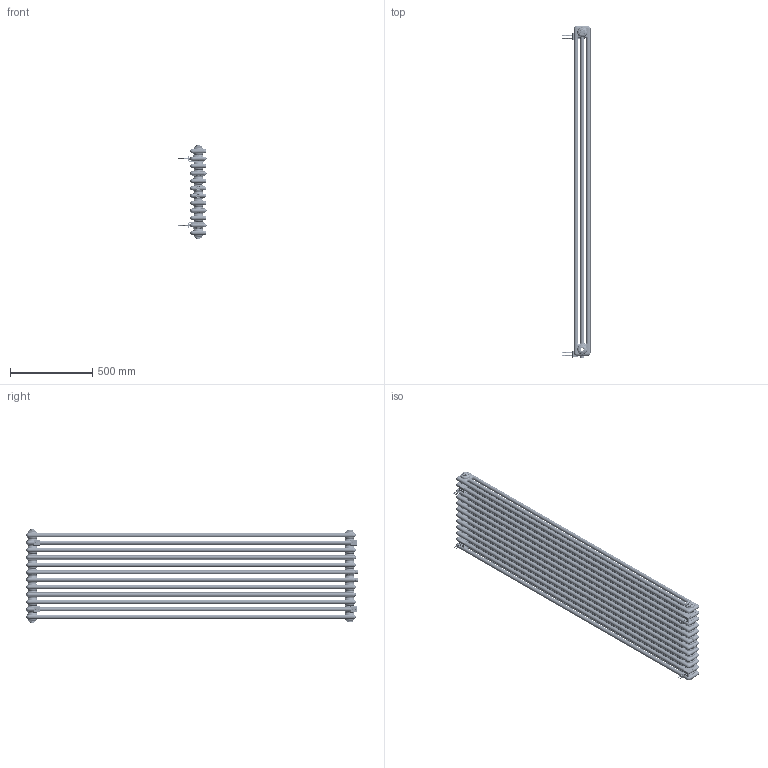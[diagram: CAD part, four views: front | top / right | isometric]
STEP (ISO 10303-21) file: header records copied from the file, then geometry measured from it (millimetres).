
FILE_DESCRIPTION(/* description */ (''),/* implementation_level */ '2;1');
FILE_NAME(/* name */ 'CL03 2000x560',/* time_stamp */ '2023-09-09T16:53:08+08:00',/* author */ (''),/* organization */ (''),/* preprocessor_version */ 'ST-DEVELOPER v9',/* originating_system */ 'UGS - NX 4.0',/* authorisation */ '');
FILE_SCHEMA (('CONFIG_CONTROL_DESIGN'));
Products named in the file (1): AdmiF21Fp0cb
Bounding box: 176.1 x 2013 x 574 mm (x, y, z)
Volume: 6640598 mm3; surface area: 10950168.6 mm2
Topology: 45 solids, 45 shells, 4643 faces, 11145 edges, 6589 vertices
Faces by surface type: bspline 1363, cylinder 1257, plane 904, torus 692, cone 427
Full cylindrical faces by diameter (mm): 25 x2
Entity records: 277686 total; most frequent: CARTESIAN_POINT 180568, ORIENTED_EDGE 22258, DIRECTION 17721, EDGE_CURVE 11129, AXIS2_PLACEMENT_3D 7487, VERTEX_POINT 6591, EDGE_LOOP 4876, ADVANCED_FACE 4643
